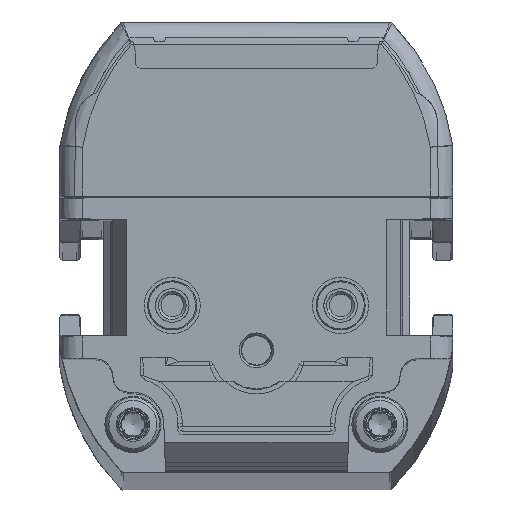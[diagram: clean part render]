
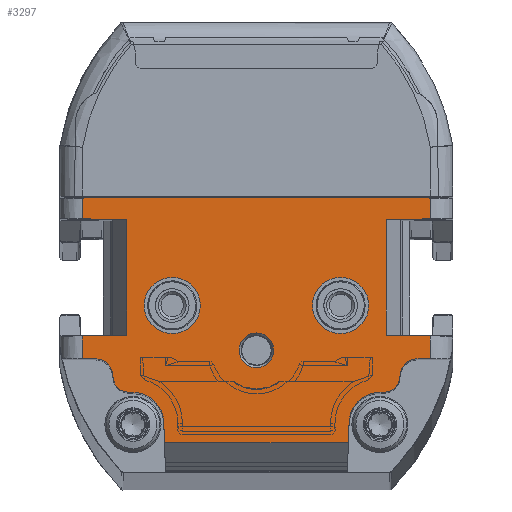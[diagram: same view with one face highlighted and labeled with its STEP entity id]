
A CAD part, top view. The second image highlights one B-rep face of the part: STEP entity #3297.
In plain terms, the highlighted planar face has unit normal (0, 0, 1).
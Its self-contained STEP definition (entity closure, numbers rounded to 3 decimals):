
#421=FACE_BOUND('',#5401,.T.);
#422=FACE_BOUND('',#5402,.T.);
#423=FACE_BOUND('',#5403,.T.);
#424=FACE_BOUND('',#5404,.T.);
#1077=CIRCLE('',#17087,2.5);
#1078=CIRCLE('',#17089,2.5);
#1079=CIRCLE('',#17091,1.55);
#1082=CIRCLE('',#17161,1.5);
#1083=CIRCLE('',#17162,1.5);
#1084=CIRCLE('',#17163,1.5);
#1085=CIRCLE('',#17164,1.5);
#1086=CIRCLE('',#17165,2.75);
#1087=CIRCLE('',#17166,2.75);
#3297=ADVANCED_FACE('',(#421,#422,#423,#424),#3844,.T.);
#3844=PLANE('',#17167);
#5401=EDGE_LOOP('',(#8778));
#5402=EDGE_LOOP('',(#8779));
#5403=EDGE_LOOP('',(#8780));
#5404=EDGE_LOOP('',(#8781,#8782,#8783,#8784,#8785,#8786,#8787,#8788,#8789,
#8790,#8791,#8792,#8793,#8794,#8795,#8796,#8797,#8798,#8799,#8800,#8801,
#8802,#8803,#8804,#8805,#8806));
#8778=ORIENTED_EDGE('',*,*,#13136,.T.);
#8779=ORIENTED_EDGE('',*,*,#13135,.F.);
#8780=ORIENTED_EDGE('',*,*,#13134,.F.);
#8781=ORIENTED_EDGE('',*,*,#13256,.F.);
#8782=ORIENTED_EDGE('',*,*,#13257,.T.);
#8783=ORIENTED_EDGE('',*,*,#13258,.T.);
#8784=ORIENTED_EDGE('',*,*,#13259,.T.);
#8785=ORIENTED_EDGE('',*,*,#13187,.T.);
#8786=ORIENTED_EDGE('',*,*,#13133,.T.);
#8787=ORIENTED_EDGE('',*,*,#13130,.T.);
#8788=ORIENTED_EDGE('',*,*,#13129,.T.);
#8789=ORIENTED_EDGE('',*,*,#13255,.T.);
#8790=ORIENTED_EDGE('',*,*,#13260,.F.);
#8791=ORIENTED_EDGE('',*,*,#13261,.F.);
#8792=ORIENTED_EDGE('',*,*,#13262,.F.);
#8793=ORIENTED_EDGE('',*,*,#13249,.T.);
#8794=ORIENTED_EDGE('',*,*,#13125,.F.);
#8795=ORIENTED_EDGE('',*,*,#13121,.T.);
#8796=ORIENTED_EDGE('',*,*,#13120,.F.);
#8797=ORIENTED_EDGE('',*,*,#13160,.T.);
#8798=ORIENTED_EDGE('',*,*,#13263,.F.);
#8799=ORIENTED_EDGE('',*,*,#13264,.T.);
#8800=ORIENTED_EDGE('',*,*,#13265,.T.);
#8801=ORIENTED_EDGE('',*,*,#13266,.F.);
#8802=ORIENTED_EDGE('',*,*,#13267,.F.);
#8803=ORIENTED_EDGE('',*,*,#13268,.F.);
#8804=ORIENTED_EDGE('',*,*,#13168,.T.);
#8805=ORIENTED_EDGE('',*,*,#13269,.F.);
#8806=ORIENTED_EDGE('',*,*,#13270,.F.);
#11161=VERTEX_POINT('',#29676);
#11162=VERTEX_POINT('',#29678);
#11163=VERTEX_POINT('',#29682);
#11164=VERTEX_POINT('',#29686);
#11166=VERTEX_POINT('',#29692);
#11168=VERTEX_POINT('',#29696);
#11169=VERTEX_POINT('',#29700);
#11170=VERTEX_POINT('',#29704);
#11171=VERTEX_POINT('',#29708);
#11172=VERTEX_POINT('',#29711);
#11173=VERTEX_POINT('',#29714);
#11190=VERTEX_POINT('',#29809);
#11195=VERTEX_POINT('',#29823);
#11196=VERTEX_POINT('',#29825);
#11209=VERTEX_POINT('',#29865);
#11243=VERTEX_POINT('',#30117);
#11247=VERTEX_POINT('',#30127);
#11248=VERTEX_POINT('',#30131);
#11249=VERTEX_POINT('',#30132);
#11250=VERTEX_POINT('',#30134);
#11251=VERTEX_POINT('',#30136);
#11252=VERTEX_POINT('',#30139);
#11253=VERTEX_POINT('',#30141);
#11254=VERTEX_POINT('',#30144);
#11255=VERTEX_POINT('',#30146);
#11256=VERTEX_POINT('',#30148);
#11257=VERTEX_POINT('',#30150);
#11258=VERTEX_POINT('',#30152);
#11259=VERTEX_POINT('',#30155);
#13120=EDGE_CURVE('',#11162,#11161,#14689,.T.);
#13121=EDGE_CURVE('',#11163,#11161,#14690,.T.);
#13125=EDGE_CURVE('',#11163,#11164,#14693,.T.);
#13129=EDGE_CURVE('',#11166,#11168,#14696,.T.);
#13130=EDGE_CURVE('',#11169,#11166,#14697,.T.);
#13133=EDGE_CURVE('',#11170,#11169,#14699,.T.);
#13134=EDGE_CURVE('',#11171,#11171,#1077,.T.);
#13135=EDGE_CURVE('',#11172,#11172,#1078,.T.);
#13136=EDGE_CURVE('',#11173,#11173,#1079,.T.);
#13160=EDGE_CURVE('',#11162,#11190,#14714,.T.);
#13168=EDGE_CURVE('',#11195,#11196,#14720,.T.);
#13187=EDGE_CURVE('',#11209,#11170,#14733,.T.);
#13249=EDGE_CURVE('',#11243,#11164,#14776,.T.);
#13255=EDGE_CURVE('',#11168,#11247,#14778,.T.);
#13256=EDGE_CURVE('',#11248,#11249,#14779,.T.);
#13257=EDGE_CURVE('',#11248,#11250,#1082,.T.);
#13258=EDGE_CURVE('',#11250,#11251,#1083,.T.);
#13259=EDGE_CURVE('',#11251,#11209,#14780,.T.);
#13260=EDGE_CURVE('',#11252,#11247,#14781,.T.);
#13261=EDGE_CURVE('',#11253,#11252,#14782,.T.);
#13262=EDGE_CURVE('',#11243,#11253,#14783,.T.);
#13263=EDGE_CURVE('',#11254,#11190,#14784,.T.);
#13264=EDGE_CURVE('',#11254,#11255,#1084,.T.);
#13265=EDGE_CURVE('',#11255,#11256,#1085,.T.);
#13266=EDGE_CURVE('',#11257,#11256,#14785,.T.);
#13267=EDGE_CURVE('',#11258,#11257,#1086,.T.);
#13268=EDGE_CURVE('',#11195,#11258,#14786,.T.);
#13269=EDGE_CURVE('',#11259,#11196,#14787,.T.);
#13270=EDGE_CURVE('',#11249,#11259,#1087,.T.);
#14689=LINE('',#29679,#15852);
#14690=LINE('',#29681,#15853);
#14693=LINE('',#29689,#15856);
#14696=LINE('',#29697,#15859);
#14697=LINE('',#29699,#15860);
#14699=LINE('',#29705,#15862);
#14714=LINE('',#29810,#15877);
#14720=LINE('',#29826,#15883);
#14733=LINE('',#29864,#15896);
#14776=LINE('',#30116,#15939);
#14778=LINE('',#30128,#15941);
#14779=LINE('',#30130,#15942);
#14780=LINE('',#30137,#15943);
#14781=LINE('',#30138,#15944);
#14782=LINE('',#30140,#15945);
#14783=LINE('',#30142,#15946);
#14784=LINE('',#30143,#15947);
#14785=LINE('',#30149,#15948);
#14786=LINE('',#30153,#15949);
#14787=LINE('',#30154,#15950);
#15852=VECTOR('',#20046,1.);
#15853=VECTOR('',#20049,1.);
#15856=VECTOR('',#20056,1.);
#15859=VECTOR('',#20063,1.);
#15860=VECTOR('',#20066,1.);
#15862=VECTOR('',#20072,1.);
#15877=VECTOR('',#20123,1.);
#15883=VECTOR('',#20137,1.);
#15896=VECTOR('',#20176,1.);
#15939=VECTOR('',#20287,1.);
#15941=VECTOR('',#20299,1.);
#15942=VECTOR('',#20302,1.);
#15943=VECTOR('',#20307,1.);
#15944=VECTOR('',#20308,1.);
#15945=VECTOR('',#20309,1.);
#15946=VECTOR('',#20310,1.);
#15947=VECTOR('',#20311,1.);
#15948=VECTOR('',#20316,1.);
#15949=VECTOR('',#20319,1.);
#15950=VECTOR('',#20320,1.);
#17087=AXIS2_PLACEMENT_3D('',#29707,#20075,#20076);
#17089=AXIS2_PLACEMENT_3D('',#29710,#20079,#20080);
#17091=AXIS2_PLACEMENT_3D('',#29713,#20083,#20084);
#17161=AXIS2_PLACEMENT_3D('',#30133,#20303,#20304);
#17162=AXIS2_PLACEMENT_3D('',#30135,#20305,#20306);
#17163=AXIS2_PLACEMENT_3D('',#30145,#20312,#20313);
#17164=AXIS2_PLACEMENT_3D('',#30147,#20314,#20315);
#17165=AXIS2_PLACEMENT_3D('',#30151,#20317,#20318);
#17166=AXIS2_PLACEMENT_3D('',#30156,#20321,#20322);
#17167=AXIS2_PLACEMENT_3D('',#30157,#20323,#20324);
#20046=DIRECTION('',(1.,0.017,0.));
#20049=DIRECTION('',(0.,-1.,0.));
#20056=DIRECTION('',(-1.,0.017,0.));
#20063=DIRECTION('',(1.,0.017,0.));
#20066=DIRECTION('',(0.,1.,0.));
#20072=DIRECTION('',(-1.,0.017,0.));
#20075=DIRECTION('',(0.,0.,1.));
#20076=DIRECTION('',(1.,0.,0.));
#20079=DIRECTION('',(0.,0.,1.));
#20080=DIRECTION('',(1.,0.,0.));
#20083=DIRECTION('',(0.,0.,-1.));
#20084=DIRECTION('',(1.,0.,0.));
#20123=DIRECTION('',(0.,-1.,0.));
#20137=DIRECTION('',(1.,0.,0.));
#20176=DIRECTION('',(0.,1.,0.));
#20287=DIRECTION('',(0.,-1.,0.));
#20299=DIRECTION('',(0.,1.,0.));
#20302=DIRECTION('',(-1.,0.,0.));
#20303=DIRECTION('',(0.,0.,1.));
#20304=DIRECTION('',(1.,0.,0.));
#20305=DIRECTION('',(0.,0.,-1.));
#20306=DIRECTION('',(1.,0.,0.));
#20307=DIRECTION('',(1.,0.,0.));
#20308=DIRECTION('',(1.,-0.017,0.));
#20309=DIRECTION('',(1.,0.,0.));
#20310=DIRECTION('',(1.,0.017,0.));
#20311=DIRECTION('',(-1.,0.,0.));
#20312=DIRECTION('',(0.,0.,-1.));
#20313=DIRECTION('',(1.,0.,0.));
#20314=DIRECTION('',(0.,0.,1.));
#20315=DIRECTION('',(1.,0.,0.));
#20316=DIRECTION('',(-1.,0.,0.));
#20317=DIRECTION('',(0.,0.,1.));
#20318=DIRECTION('',(1.,0.,0.));
#20319=DIRECTION('',(-0.035,0.999,0.));
#20320=DIRECTION('',(-0.035,-0.999,0.));
#20321=DIRECTION('',(0.,0.,1.));
#20322=DIRECTION('',(1.,0.,0.));
#20323=DIRECTION('',(0.,0.,1.));
#20324=DIRECTION('',(1.,0.,0.));
#29676=CARTESIAN_POINT('',(-11.55,12.107,966.));
#29678=CARTESIAN_POINT('',(-15.5,12.038,966.));
#29679=CARTESIAN_POINT('',(-17.709,11.999,966.));
#29681=CARTESIAN_POINT('',(-11.55,0.,966.));
#29682=CARTESIAN_POINT('',(-11.55,22.393,966.));
#29686=CARTESIAN_POINT('',(-15.5,22.462,966.));
#29689=CARTESIAN_POINT('',(-17.107,22.49,966.));
#29692=CARTESIAN_POINT('',(11.55,22.393,966.));
#29696=CARTESIAN_POINT('',(15.5,22.462,966.));
#29697=CARTESIAN_POINT('',(-17.882,21.88,966.));
#29699=CARTESIAN_POINT('',(11.55,0.,966.));
#29700=CARTESIAN_POINT('',(11.55,12.107,966.));
#29704=CARTESIAN_POINT('',(15.5,12.038,966.));
#29705=CARTESIAN_POINT('',(-17.28,12.61,966.));
#29707=CARTESIAN_POINT('',(-7.5,14.75,966.));
#29708=CARTESIAN_POINT('',(-5.,14.75,966.));
#29710=CARTESIAN_POINT('',(7.5,14.75,966.));
#29711=CARTESIAN_POINT('',(10.,14.75,966.));
#29713=CARTESIAN_POINT('',(0.,10.75,966.));
#29714=CARTESIAN_POINT('',(1.55,10.75,966.));
#29809=CARTESIAN_POINT('',(-15.5,10.,966.));
#29810=CARTESIAN_POINT('',(-15.5,0.,966.));
#29823=CARTESIAN_POINT('',(-8.189,2.5,966.));
#29825=CARTESIAN_POINT('',(8.189,2.5,966.));
#29826=CARTESIAN_POINT('',(-17.5,2.5,966.));
#29864=CARTESIAN_POINT('',(15.5,0.,966.));
#29865=CARTESIAN_POINT('',(15.5,10.,966.));
#30116=CARTESIAN_POINT('',(-15.5,0.,966.));
#30117=CARTESIAN_POINT('',(-15.5,24.317,966.));
#30127=CARTESIAN_POINT('',(15.5,24.317,966.));
#30128=CARTESIAN_POINT('',(15.5,0.,966.));
#30130=CARTESIAN_POINT('',(23.25,7.,966.));
#30131=CARTESIAN_POINT('',(11.3,7.,966.));
#30132=CARTESIAN_POINT('',(11.002,7.,966.));
#30133=CARTESIAN_POINT('',(11.3,8.5,966.));
#30134=CARTESIAN_POINT('',(12.8,8.5,966.));
#30135=CARTESIAN_POINT('',(14.3,8.5,966.));
#30136=CARTESIAN_POINT('',(14.3,10.,966.));
#30137=CARTESIAN_POINT('',(-17.5,10.,966.));
#30138=CARTESIAN_POINT('',(-17.066,24.886,966.));
#30139=CARTESIAN_POINT('',(13.025,24.36,966.));
#30140=CARTESIAN_POINT('',(-17.5,24.36,966.));
#30141=CARTESIAN_POINT('',(-13.025,24.36,966.));
#30142=CARTESIAN_POINT('',(-17.924,24.275,966.));
#30143=CARTESIAN_POINT('',(-17.5,10.,966.));
#30144=CARTESIAN_POINT('',(-14.3,10.,966.));
#30145=CARTESIAN_POINT('',(-14.3,8.5,966.));
#30146=CARTESIAN_POINT('',(-12.8,8.5,966.));
#30147=CARTESIAN_POINT('',(-11.3,8.5,966.));
#30148=CARTESIAN_POINT('',(-11.3,7.,966.));
#30149=CARTESIAN_POINT('',(-11.,7.,966.));
#30150=CARTESIAN_POINT('',(-11.002,7.,966.));
#30151=CARTESIAN_POINT('',(-11.002,4.25,966.));
#30152=CARTESIAN_POINT('',(-8.253,4.346,966.));
#30153=CARTESIAN_POINT('',(-8.25,4.25,966.));
#30154=CARTESIAN_POINT('',(8.25,4.25,966.));
#30155=CARTESIAN_POINT('',(8.253,4.346,966.));
#30156=CARTESIAN_POINT('',(11.002,4.25,966.));
#30157=CARTESIAN_POINT('',(-17.5,0.,966.));
